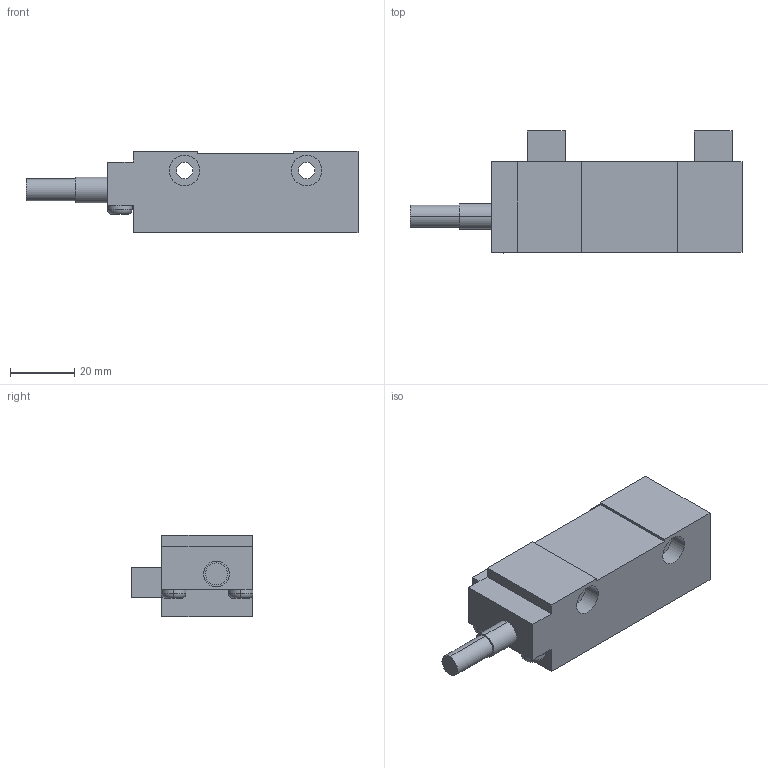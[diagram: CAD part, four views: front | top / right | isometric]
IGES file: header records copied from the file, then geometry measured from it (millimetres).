
Global section: file name: No Iges File Name specified; native system: AutoDesk Inventor R12.0; preprocessor: AutoDesk Inventor Iges Exporter R12.0; date: 20081121.153009; units: millimetre
Bounding box: 103.4 x 37.99 x 25.4 mm (x, y, z)
Volume: 53575.1 mm3; surface area: 12823.9 mm2
Topology: 1 solids, 1 shells, 86 faces, 206 edges, 120 vertices
Faces by surface type: bspline 42, plane 32, cylinder 8, torus 4
